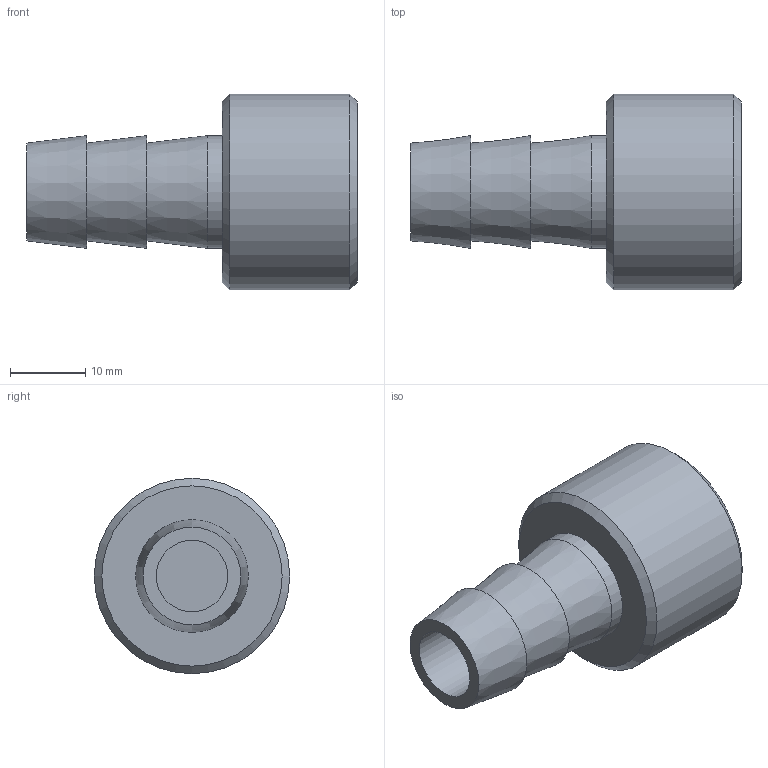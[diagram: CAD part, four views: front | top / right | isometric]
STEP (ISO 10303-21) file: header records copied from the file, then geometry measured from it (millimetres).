
FILE_DESCRIPTION( ( 'STEP AP203' ), '1' );
FILE_NAME( 'C:/Temp/Ganter_Step_05_03_2020/data/3_5/gn880_1/gn880_1_ans/gn880_1_a/Connector piece withot drain hose GN 880.1-22-A.stp', '2020-03-12T13:42:24', ( 'License CC BY-ND 4.0' ), ( 'CADENAS' ), ' ', 'PARTsolutions', ' ' );
FILE_SCHEMA( ( 'CONFIG_CONTROL_DESIGN' ) );
Length unit declared in the file: millimetre
Products named in the file (3): Connector piece withot drain hose GN 880.1-22-A; _Anschlussstueck ohne Ablassschlauch GN 880.1-22-A_a; _Anschlussstueck ohne Ablassschlauch GN 880.1-22-A_dk
Assembly tree (2 placements, depth 2):
  Connector piece withot drain hose GN 880.1-22-A
    _Anschlussstueck ohne Ablassschlauch GN 880.1-22-A_a
    _Anschlussstueck ohne Ablassschlauch GN 880.1-22-A_dk
Bounding box: 44 x 26 x 26 mm (x, y, z)
Volume: 8663.6 mm3; surface area: 7109.7 mm2
Topology: 2 solids, 2 shells, 32 faces, 49 edges, 31 vertices
Faces by surface type: plane 14, cylinder 10, cone 6, torus 2
Full cylindrical faces by diameter (mm): 8.5 x1, 9.5 x1, 10.5 x2, 15 x3, 20 x1, 20.376 x1, 26 x1
Entity records: 750 total; most frequent: DIRECTION 132, CARTESIAN_POINT 98, AXIS2_PLACEMENT_3D 66, EDGE_LOOP 62, ORIENTED_EDGE 62, FACE_OUTER_BOUND 44, ADVANCED_FACE 32, VERTEX_POINT 32
